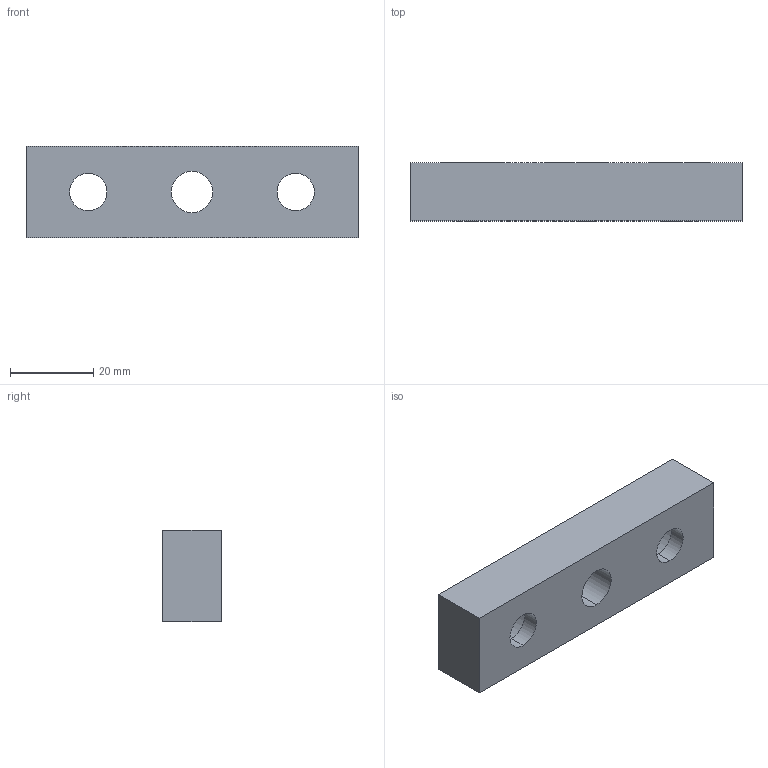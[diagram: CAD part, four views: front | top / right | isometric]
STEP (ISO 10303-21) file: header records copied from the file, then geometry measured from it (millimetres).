
FILE_DESCRIPTION(('CATIA V5 STEP Exchange'),'2;1');
FILE_NAME('C:\Users\Raffaele\Desktop\3D X SITO CF\761\GSB_OILLESS_M31705014080\STEP-2.03\761-014080.stp','2019-07-05T06:10:59+00:00',('none'),('none'),'CATIA Version 5 Release 20 GA (IN-10)','CATIA V5 STEP AP203','none');
FILE_SCHEMA(('CONFIG_CONTROL_DESIGN'));
Length unit declared in the file: millimetre
Products named in the file (1): 761-014080
Bounding box: 80 x 14 x 22 mm (x, y, z)
Volume: 18908.2 mm3; surface area: 7667.2 mm2
Topology: 1 solids, 1 shells, 21 faces, 72 edges, 56 vertices
Faces by surface type: cylinder 12, plane 9
Entity records: 978 total; most frequent: CARTESIAN_POINT 300, ORIENTED_EDGE 144, DIRECTION 102, EDGE_CURVE 72, AXIS2_PLACEMENT_3D 58, VERTEX_POINT 56, CIRCLE 36, EDGE_LOOP 30
